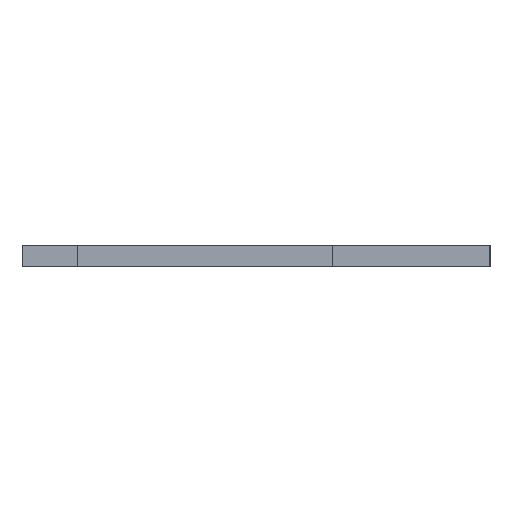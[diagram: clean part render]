
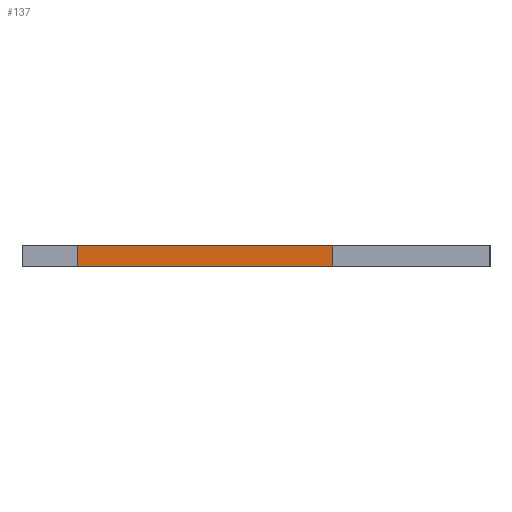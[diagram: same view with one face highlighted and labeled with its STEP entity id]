
A CAD part, left-side view. The second image highlights one B-rep face of the part: STEP entity #137.
In plain terms, the highlighted planar face has unit normal (-1, 0, 0).
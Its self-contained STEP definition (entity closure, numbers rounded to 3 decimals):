
#21 = EDGE_CURVE('',#22,#24,#26,.T.);
#22 = VERTEX_POINT('',#23);
#23 = CARTESIAN_POINT('',(0.,18.5,0.));
#24 = VERTEX_POINT('',#25);
#25 = CARTESIAN_POINT('',(0.,18.5,2.5));
#26 = SURFACE_CURVE('',#27,(#31,#43),.PCURVE_S1.);
#27 = LINE('',#28,#29);
#28 = CARTESIAN_POINT('',(0.,18.5,0.));
#29 = VECTOR('',#30,1.);
#30 = DIRECTION('',(0.,0.,1.));
#31 = PCURVE('',#32,#37);
#32 = PLANE('',#33);
#33 = AXIS2_PLACEMENT_3D('',#34,#35,#36);
#34 = CARTESIAN_POINT('',(0.,18.5,0.));
#35 = DIRECTION('',(0.,1.,0.));
#36 = DIRECTION('',(1.,0.,0.));
#37 = DEFINITIONAL_REPRESENTATION('',(#38),#42);
#38 = LINE('',#39,#40);
#39 = CARTESIAN_POINT('',(0.,0.));
#40 = VECTOR('',#41,1.);
#41 = DIRECTION('',(0.,-1.));
#42 = ( GEOMETRIC_REPRESENTATION_CONTEXT(2) 
PARAMETRIC_REPRESENTATION_CONTEXT() REPRESENTATION_CONTEXT('2D SPACE',''
  ) );
#43 = PCURVE('',#44,#49);
#44 = PLANE('',#45);
#45 = AXIS2_PLACEMENT_3D('',#46,#47,#48);
#46 = CARTESIAN_POINT('',(0.,48.5,0.));
#47 = DIRECTION('',(1.,0.,-0.));
#48 = DIRECTION('',(0.,-1.,0.));
#49 = DEFINITIONAL_REPRESENTATION('',(#50),#54);
#50 = LINE('',#51,#52);
#51 = CARTESIAN_POINT('',(30.,0.));
#52 = VECTOR('',#53,1.);
#53 = DIRECTION('',(0.,-1.));
#54 = ( GEOMETRIC_REPRESENTATION_CONTEXT(2) 
PARAMETRIC_REPRESENTATION_CONTEXT() REPRESENTATION_CONTEXT('2D SPACE',''
  ) );
#72 = PLANE('',#73);
#73 = AXIS2_PLACEMENT_3D('',#74,#75,#76);
#74 = CARTESIAN_POINT('',(174.,28.393,2.5));
#75 = DIRECTION('',(0.,0.,1.));
#76 = DIRECTION('',(1.,0.,-0.));
#126 = PLANE('',#127);
#127 = AXIS2_PLACEMENT_3D('',#128,#129,#130);
#128 = CARTESIAN_POINT('',(174.,28.393,0.));
#129 = DIRECTION('',(0.,0.,1.));
#130 = DIRECTION('',(1.,0.,-0.));
#137 = ADVANCED_FACE('',(#138),#44,.F.);
#138 = FACE_BOUND('',#139,.F.);
#139 = EDGE_LOOP('',(#140,#170,#191,#192));
#140 = ORIENTED_EDGE('',*,*,#141,.T.);
#141 = EDGE_CURVE('',#142,#144,#146,.T.);
#142 = VERTEX_POINT('',#143);
#143 = CARTESIAN_POINT('',(0.,48.5,0.));
#144 = VERTEX_POINT('',#145);
#145 = CARTESIAN_POINT('',(0.,48.5,2.5));
#146 = SURFACE_CURVE('',#147,(#151,#158),.PCURVE_S1.);
#147 = LINE('',#148,#149);
#148 = CARTESIAN_POINT('',(0.,48.5,0.));
#149 = VECTOR('',#150,1.);
#150 = DIRECTION('',(0.,0.,1.));
#151 = PCURVE('',#44,#152);
#152 = DEFINITIONAL_REPRESENTATION('',(#153),#157);
#153 = LINE('',#154,#155);
#154 = CARTESIAN_POINT('',(0.,0.));
#155 = VECTOR('',#156,1.);
#156 = DIRECTION('',(0.,-1.));
#157 = ( GEOMETRIC_REPRESENTATION_CONTEXT(2) 
PARAMETRIC_REPRESENTATION_CONTEXT() REPRESENTATION_CONTEXT('2D SPACE',''
  ) );
#158 = PCURVE('',#159,#164);
#159 = PLANE('',#160);
#160 = AXIS2_PLACEMENT_3D('',#161,#162,#163);
#161 = CARTESIAN_POINT('',(30.,48.5,0.));
#162 = DIRECTION('',(0.,-1.,0.));
#163 = DIRECTION('',(-1.,0.,0.));
#164 = DEFINITIONAL_REPRESENTATION('',(#165),#169);
#165 = LINE('',#166,#167);
#166 = CARTESIAN_POINT('',(30.,0.));
#167 = VECTOR('',#168,1.);
#168 = DIRECTION('',(0.,-1.));
#169 = ( GEOMETRIC_REPRESENTATION_CONTEXT(2) 
PARAMETRIC_REPRESENTATION_CONTEXT() REPRESENTATION_CONTEXT('2D SPACE',''
  ) );
#170 = ORIENTED_EDGE('',*,*,#171,.T.);
#171 = EDGE_CURVE('',#144,#24,#172,.T.);
#172 = SURFACE_CURVE('',#173,(#177,#184),.PCURVE_S1.);
#173 = LINE('',#174,#175);
#174 = CARTESIAN_POINT('',(0.,48.5,2.5));
#175 = VECTOR('',#176,1.);
#176 = DIRECTION('',(0.,-1.,0.));
#177 = PCURVE('',#44,#178);
#178 = DEFINITIONAL_REPRESENTATION('',(#179),#183);
#179 = LINE('',#180,#181);
#180 = CARTESIAN_POINT('',(0.,-2.5));
#181 = VECTOR('',#182,1.);
#182 = DIRECTION('',(1.,0.));
#183 = ( GEOMETRIC_REPRESENTATION_CONTEXT(2) 
PARAMETRIC_REPRESENTATION_CONTEXT() REPRESENTATION_CONTEXT('2D SPACE',''
  ) );
#184 = PCURVE('',#72,#185);
#185 = DEFINITIONAL_REPRESENTATION('',(#186),#190);
#186 = LINE('',#187,#188);
#187 = CARTESIAN_POINT('',(-174.,20.107));
#188 = VECTOR('',#189,1.);
#189 = DIRECTION('',(0.,-1.));
#190 = ( GEOMETRIC_REPRESENTATION_CONTEXT(2) 
PARAMETRIC_REPRESENTATION_CONTEXT() REPRESENTATION_CONTEXT('2D SPACE',''
  ) );
#191 = ORIENTED_EDGE('',*,*,#21,.F.);
#192 = ORIENTED_EDGE('',*,*,#193,.F.);
#193 = EDGE_CURVE('',#142,#22,#194,.T.);
#194 = SURFACE_CURVE('',#195,(#199,#206),.PCURVE_S1.);
#195 = LINE('',#196,#197);
#196 = CARTESIAN_POINT('',(0.,48.5,0.));
#197 = VECTOR('',#198,1.);
#198 = DIRECTION('',(0.,-1.,0.));
#199 = PCURVE('',#44,#200);
#200 = DEFINITIONAL_REPRESENTATION('',(#201),#205);
#201 = LINE('',#202,#203);
#202 = CARTESIAN_POINT('',(0.,0.));
#203 = VECTOR('',#204,1.);
#204 = DIRECTION('',(1.,0.));
#205 = ( GEOMETRIC_REPRESENTATION_CONTEXT(2) 
PARAMETRIC_REPRESENTATION_CONTEXT() REPRESENTATION_CONTEXT('2D SPACE',''
  ) );
#206 = PCURVE('',#126,#207);
#207 = DEFINITIONAL_REPRESENTATION('',(#208),#212);
#208 = LINE('',#209,#210);
#209 = CARTESIAN_POINT('',(-174.,20.107));
#210 = VECTOR('',#211,1.);
#211 = DIRECTION('',(0.,-1.));
#212 = ( GEOMETRIC_REPRESENTATION_CONTEXT(2) 
PARAMETRIC_REPRESENTATION_CONTEXT() REPRESENTATION_CONTEXT('2D SPACE',''
  ) );
